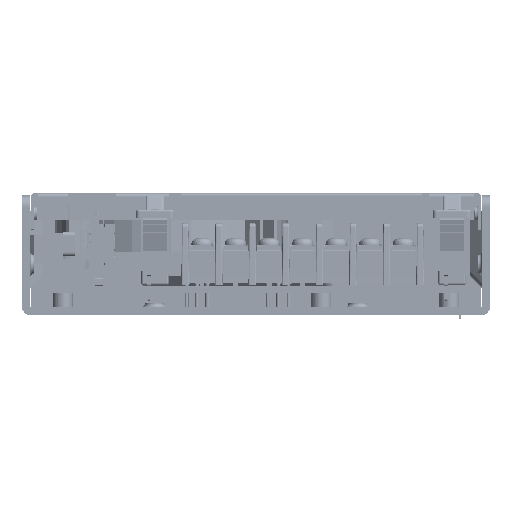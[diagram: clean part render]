
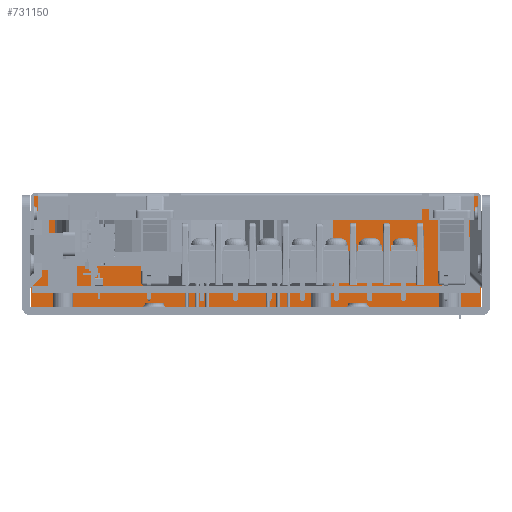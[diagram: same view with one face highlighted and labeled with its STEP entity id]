
A CAD part, left-side view. The second image highlights one B-rep face of the part: STEP entity #731150.
In plain terms, the highlighted planar face has unit normal (-1, 0, 0).
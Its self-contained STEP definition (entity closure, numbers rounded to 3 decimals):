
#728180=CARTESIAN_POINT('',(261.078,285.192,31.));
#728190=VERTEX_POINT('',#728180);
#728220=CARTESIAN_POINT('',(261.078,285.192,1.5));
#728230=DIRECTION('',(0.,0.,-1.));
#728240=VECTOR('',#728230,1.);
#728250=LINE('',#728220,#728240);
#728260=CARTESIAN_POINT('',(261.078,285.192,
3.6));
#728270=VERTEX_POINT('',#728260);
#728280=EDGE_CURVE('',#728190,#728270,#728250,.T.);
#728950=CARTESIAN_POINT('',(261.078,174.392,
3.6));
#728960=VERTEX_POINT('',#728950);
#728990=CARTESIAN_POINT('',(261.078,174.392,1.5));
#729000=DIRECTION('',(0.,0.,1.));
#729010=VECTOR('',#729000,1.);
#729020=LINE('',#728990,#729010);
#729030=CARTESIAN_POINT('',(261.078,174.392,31.));
#729040=VERTEX_POINT('',#729030);
#729050=EDGE_CURVE('',#728960,#729040,#729020,.T.);
#729320=CARTESIAN_POINT('',(261.078,-140.208,
3.6));
#729330=DIRECTION('',(0.,1.,0.));
#729340=VECTOR('',#729330,1.);
#729350=LINE('',#729320,#729340);
#729360=EDGE_CURVE('',#728960,#728270,#729350,.T.);
#729470=CARTESIAN_POINT('',(261.078,-140.208,31.));
#729480=DIRECTION('',(0.,-1.,0.));
#729490=VECTOR('',#729480,1.);
#729500=LINE('',#729470,#729490);
#729510=EDGE_CURVE('',#728190,#729040,#729500,.T.);
#730400=CARTESIAN_POINT('',(261.078,268.067,
44.));
#730410=DIRECTION('',(1.,0.,-0.));
#730420=DIRECTION('',(0.,1.,0.));
#730430=AXIS2_PLACEMENT_3D('',#730400,#730410,#730420);
#730440=PLANE('',#730430);
#730450=CARTESIAN_POINT('',(261.078,-140.908,
26.998));
#730460=DIRECTION('',(0.,-1.,0.));
#730470=VECTOR('',#730460,1.);
#730480=LINE('',#730450,#730470);
#730490=CARTESIAN_POINT('',(261.078,212.828,
26.998));
#730500=VERTEX_POINT('',#730490);
#730510=CARTESIAN_POINT('',(261.078,210.828,
26.998));
#730520=VERTEX_POINT('',#730510);
#730530=EDGE_CURVE('',#730500,#730520,#730480,.T.);
#730540=ORIENTED_EDGE('',*,*,#730530,.T.);
#730550=CARTESIAN_POINT('',(261.078,-140.908,
26.998));
#730560=DIRECTION('',(0.,-1.,0.));
#730570=VECTOR('',#730560,1.);
#730580=LINE('',#730550,#730570);
#730590=CARTESIAN_POINT('',(261.078,255.828,
26.998));
#730600=VERTEX_POINT('',#730590);
#730610=EDGE_CURVE('',#730600,#730500,#730580,.T.);
#730620=ORIENTED_EDGE('',*,*,#730610,.T.);
#730630=CARTESIAN_POINT('',(261.078,257.828,
26.998));
#730640=VERTEX_POINT('',#730630);
#730650=EDGE_CURVE('',#730640,#730600,#730480,.T.);
#730660=ORIENTED_EDGE('',*,*,#730650,.T.);
#730670=CARTESIAN_POINT('',(261.078,257.828,1.5));
#730680=DIRECTION('',(0.,0.,-1.));
#730690=VECTOR('',#730680,1.);
#730700=LINE('',#730670,#730690);
#730710=CARTESIAN_POINT('',(261.078,257.828,
9.612));
#730720=VERTEX_POINT('',#730710);
#730730=EDGE_CURVE('',#730640,#730720,#730700,.T.);
#730740=ORIENTED_EDGE('',*,*,#730730,.F.);
#730750=CARTESIAN_POINT('',(261.078,254.999,
11.026));
#730760=DIRECTION('',(1.,0.,0.));
#730770=DIRECTION('',(0.,-0.707,
0.707));
#730780=AXIS2_PLACEMENT_3D('',#730750,#730760,#730770);
#730790=ELLIPSE('',#730780,3.464,2.);
#730800=CARTESIAN_POINT('',(261.078,256.413,
8.198));
#730810=VERTEX_POINT('',#730800);
#730820=EDGE_CURVE('',#730810,#730720,#730790,.T.);
#730830=ORIENTED_EDGE('',*,*,#730820,.T.);
#730840=CARTESIAN_POINT('',(261.078,-140.908,
8.198));
#730850=DIRECTION('',(0.,-1.,0.));
#730860=VECTOR('',#730850,1.);
#730870=LINE('',#730840,#730860);
#730880=CARTESIAN_POINT('',(261.078,212.242,
8.198));
#730890=VERTEX_POINT('',#730880);
#730900=EDGE_CURVE('',#730810,#730890,#730870,.T.);
#730910=ORIENTED_EDGE('',*,*,#730900,.F.);
#730920=CARTESIAN_POINT('',(261.078,213.656,
11.026));
#730930=DIRECTION('',(1.,0.,0.));
#730940=DIRECTION('',(0.,0.707,
0.707));
#730950=AXIS2_PLACEMENT_3D('',#730920,#730930,#730940);
#730960=ELLIPSE('',#730950,3.464,2.);
#730970=CARTESIAN_POINT('',(261.078,210.828,
9.612));
#730980=VERTEX_POINT('',#730970);
#730990=EDGE_CURVE('',#730980,#730890,#730960,.T.);
#731000=ORIENTED_EDGE('',*,*,#730990,.T.);
#731010=CARTESIAN_POINT('',(261.078,210.828,1.5));
#731020=DIRECTION('',(0.,0.,1.));
#731030=VECTOR('',#731020,1.);
#731040=LINE('',#731010,#731030);
#731050=EDGE_CURVE('',#730980,#730520,#731040,.T.);
#731060=ORIENTED_EDGE('',*,*,#731050,.F.);
#731070=EDGE_LOOP('',(#731060,#731000,#730910,#730830,#730740,#730660,
#730620,#730540));
#731080=FACE_BOUND('',#731070,.T.);
#731090=ORIENTED_EDGE('',*,*,#729050,.T.);
#731100=ORIENTED_EDGE('',*,*,#729360,.F.);
#731110=ORIENTED_EDGE('',*,*,#728280,.T.);
#731120=ORIENTED_EDGE('',*,*,#729510,.F.);
#731130=EDGE_LOOP('',(#731120,#731110,#731100,#731090));
#731140=FACE_OUTER_BOUND('',#731130,.T.);
#731150=ADVANCED_FACE('',(#731080,#731140),#730440,.F.);
